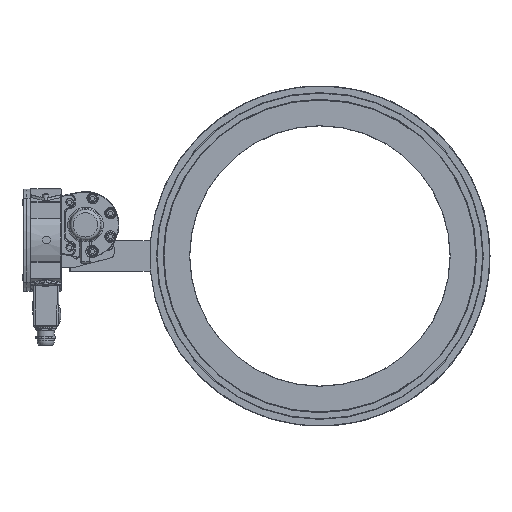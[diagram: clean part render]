
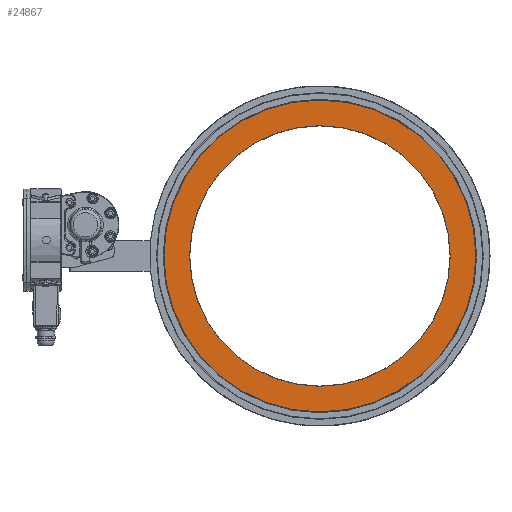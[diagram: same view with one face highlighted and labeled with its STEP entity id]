
A CAD part, top view. The second image highlights one B-rep face of the part: STEP entity #24867.
In plain terms, the highlighted planar face has unit normal (0, 0, 1).
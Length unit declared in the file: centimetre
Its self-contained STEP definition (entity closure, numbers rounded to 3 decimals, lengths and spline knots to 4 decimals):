
#7185=PLANE('',#26759);
#9264=VERTEX_POINT('',#59456);
#9265=VERTEX_POINT('',#59458);
#10191=CIRCLE('',#26791,20.375);
#10192=CIRCLE('',#26792,17.025);
#13347=EDGE_CURVE('',#9264,#9264,#10191,.T.);
#13348=EDGE_CURVE('',#9265,#9265,#10192,.T.);
#19691=ORIENTED_EDGE('',*,*,#13348,.F.);
#19692=ORIENTED_EDGE('',*,*,#13347,.F.);
#21613=EDGE_LOOP('',(#19691));
#21614=EDGE_LOOP('',(#19692));
#23400=FACE_BOUND('',#21613,.T.);
#23401=FACE_BOUND('',#21614,.T.);
#24867=ADVANCED_FACE('',(#23400,#23401),#7185,.F.);
#26759=AXIS2_PLACEMENT_3D('',#59398,#31375,$);
#26791=AXIS2_PLACEMENT_3D('',#59455,#31440,#31441);
#26792=AXIS2_PLACEMENT_3D('',#59457,#31442,#31443);
#31375=DIRECTION('',(0.,0.,-1.));
#31440=DIRECTION('',(0.,0.,-1.));
#31441=DIRECTION('',(-20.375,0.,0.));
#31442=DIRECTION('',(0.,0.,1.));
#31443=DIRECTION('',(17.025,0.,0.));
#59398=CARTESIAN_POINT('',(29.5281,-2.8808,-5.7025));
#59455=CARTESIAN_POINT('',(29.5281,-2.8808,-5.7025));
#59456=CARTESIAN_POINT('',(49.9031,-2.8808,-5.7025));
#59457=CARTESIAN_POINT('',(29.5281,-2.8808,-5.7025));
#59458=CARTESIAN_POINT('',(12.5031,-2.8808,-5.7025));
